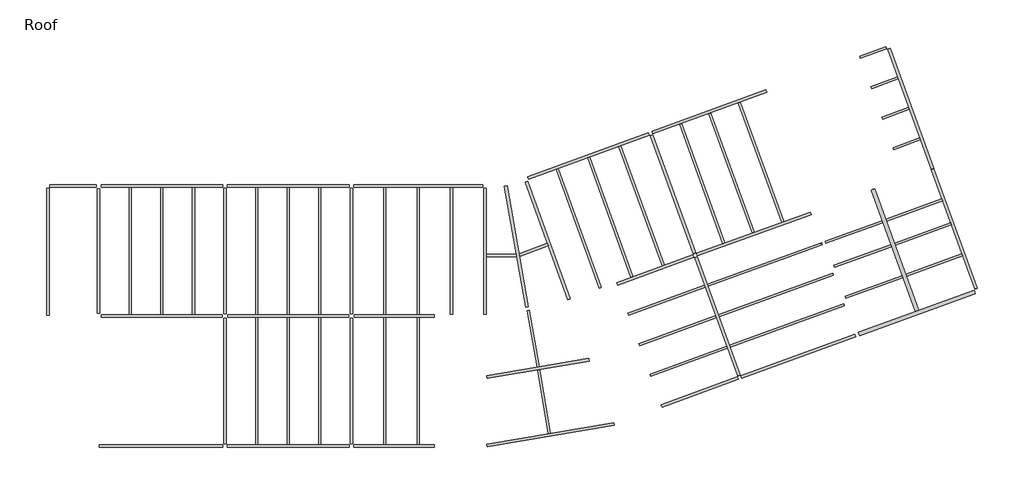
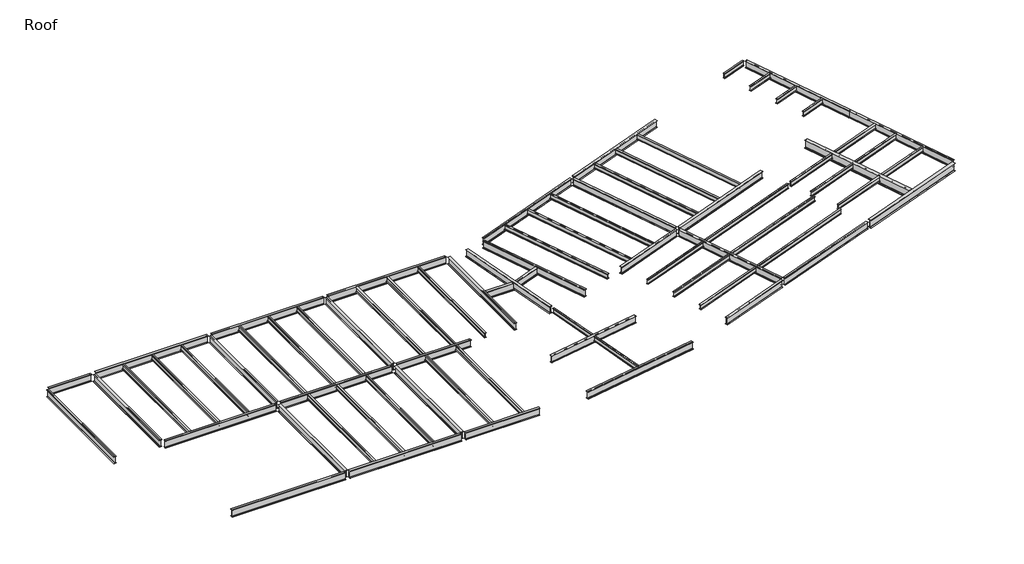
# One storey: 73 beams.
"""IFC4 building model written with IfcOpenShell, lengths in millimetres."""

from ifc_helpers import new_model, si_unit, origin, place, context, project, spatial, transform, mapped, element, save
from components import ub_universal_beams_ub305x127x37_f823aa85, ub_universal_beams_ub305x127x37_cdbcbb51, ub_universal_beams_ub305x127x37_8d1efc97, ub_universal_beams_ub305x127x37_2b7a043a, ub_universal_beams_ub305x127x37_8d2b0bf5, ub_universal_beams_ub305x127x37_16a75a32, ub_universal_beams_ub305x127x37_b9a7bbe5, ub_universal_beams_ub305x127x37_60794b88, ub_universal_beams_ub305x127x37_0c249d50, ub_universal_beams_ub305x127x37_83364cc9, ub_universal_beams_ub305x127x37_55dbae19, ub_universal_beams_ub305x127x37_5bb895c1, ub_universal_beams_ub457x152x67_a95554c7, ub_universal_beams_ub457x152x67_b6dbdd7a, ub_universal_beams_ub457x152x67_885cc86f, ub_universal_beams_ub457x152x67_c84566a2, ub_universal_beams_ub457x152x67_4841b023, ub_universal_beams_ub457x152x67_20791346, ub_universal_beams_ub457x152x67_59459dd6, ub_universal_beams_ub457x152x67_568b5c51, ub_universal_beams_ub457x152x67_e00400c9, ub_universal_beams_ub457x152x67_2db27d90, ub_universal_beams_ub457x152x67_feb0265b, ub_universal_beams_ub457x152x67_78ad538f, ub_universal_beams_ub457x152x67_801fcbf0, ub_universal_beams_ub457x152x67_7192e0ee, ub_universal_beams_ub457x152x67_7b4bcd9a, ub_universal_beams_ub457x152x67_43212cfb, ub_universal_beams_ub457x152x67_e915e172, ub_universal_beams_ub457x152x67_18d3feb0, ub_universal_beams_ub457x152x67_66b76362, ub_universal_beams_ub457x152x67_d54c9229, ub_universal_beams_ub457x152x67_f5dc209c, ub_universal_beams_ub457x152x67_e0a47d06, ub_universal_beams_ub457x152x67_f862a4b8, ub_universal_beams_ub457x152x67_a9511354, ub_universal_beams_ub457x152x67_c91190e6, ub_universal_beams_ub457x152x67_4370fdf8, ub_universal_beams_ub457x152x67_f6859559, ub_universal_beams_ub533x210x82_8ec85ef7, ub_universal_beams_ub533x210x82_0fc11a2d

model = new_model("IFC4")

# Units and contexts
model_context = context("Model", 3, world=origin())
ifc_project = project(units=[si_unit("LENGTHUNIT", "METRE", prefix="MILLI")], contexts=[model_context])

# Site, building, storey
site = spatial("IfcSite", under=ifc_project)
building = spatial("IfcBuilding", under=site)
storey = spatial("IfcBuildingStorey", under=building, Name="Roof", Elevation=11700.0)

# Beams
placement = place(None, origin())
ub_universal_beams_ub305x127x37_shape = ub_universal_beams_ub305x127x37_f823aa85(model_context)
element("IfcBeam", 1, ObjectType="UB-Universal Beams : UB305x127x37", at=placement, inside=storey, context=model_context, shape_type="MappedRepresentation", body=[
    mapped(ub_universal_beams_ub305x127x37_shape, transform((9887.2000022, 11613.2000005, 11547.8), x_axis=(0.0, 1.0, 0.0), y_axis=(-1.0, 0.0, 0.0), z_axis=(0.0, 0.0, 1.0))),
])
element("IfcBeam", 2, ObjectType="UB-Universal Beams : UB305x127x37", at=placement, inside=storey, context=model_context, shape_type="MappedRepresentation", body=[
    mapped(ub_universal_beams_ub305x127x37_shape, transform((11712.2000022, 11613.2000005, 11547.8), x_axis=(0.0, 1.0, 0.0), y_axis=(-1.0, 0.0, 0.0), z_axis=(0.0, 0.0, 1.0))),
])
element("IfcBeam", 3, ObjectType="UB-Universal Beams : UB305x127x37", at=placement, inside=storey, context=model_context, shape_type="MappedRepresentation", body=[
    mapped(ub_universal_beams_ub305x127x37_shape, transform((13537.2000023, 11613.2000005, 11547.8), x_axis=(0.0, 1.0, 0.0), y_axis=(-1.0, 0.0, 0.0), z_axis=(0.0, 0.0, 1.0))),
])
element("IfcBeam", 4, ObjectType="UB-Universal Beams : UB305x127x37", at=placement, inside=storey, context=model_context, shape_type="MappedRepresentation", body=[
    mapped(ub_universal_beams_ub305x127x37_shape, transform((17187.2000023, 11613.2000005, 11547.8), x_axis=(0.0, 1.0, 0.0), y_axis=(-1.0, 0.0, 0.0), z_axis=(0.0, 0.0, 1.0))),
])
element("IfcBeam", 5, ObjectType="UB-Universal Beams : UB305x127x37", at=placement, inside=storey, context=model_context, shape_type="MappedRepresentation", body=[
    mapped(ub_universal_beams_ub305x127x37_shape, transform((19012.2000023, 11613.2000005, 11547.8), x_axis=(0.0, 1.0, 0.0), y_axis=(-1.0, 0.0, 0.0), z_axis=(0.0, 0.0, 1.0))),
])
element("IfcBeam", 6, ObjectType="UB-Universal Beams : UB305x127x37", at=placement, inside=storey, context=model_context, shape_type="MappedRepresentation", body=[
    mapped(ub_universal_beams_ub305x127x37_shape, transform((20837.2000022, 11613.2000005, 11547.8), x_axis=(0.0, 1.0, 0.0), y_axis=(-1.0, 0.0, 0.0), z_axis=(0.0, 0.0, 1.0))),
])
element("IfcBeam", 7, ObjectType="UB-Universal Beams : UB305x127x37", at=placement, inside=storey, context=model_context, shape_type="MappedRepresentation", body=[
    mapped(ub_universal_beams_ub305x127x37_shape, transform((24587.2000022, 11613.2000005, 11547.8), x_axis=(0.0, 1.0, 0.0), y_axis=(-1.0, 0.0, 0.0), z_axis=(0.0, 0.0, 1.0))),
])
element("IfcBeam", 8, ObjectType="UB-Universal Beams : UB305x127x37", at=placement, inside=storey, context=model_context, shape_type="MappedRepresentation", body=[
    mapped(ub_universal_beams_ub305x127x37_shape, transform((26512.2000022, 11613.2000005, 11547.8), x_axis=(0.0, 1.0, 0.0), y_axis=(-1.0, 0.0, 0.0), z_axis=(0.0, 0.0, 1.0))),
])
element("IfcBeam", 9, ObjectType="UB-Universal Beams : UB305x127x37", at=placement, inside=storey, context=model_context, shape_type="MappedRepresentation", body=[
    mapped(ub_universal_beams_ub305x127x37_shape, transform((17187.2000022, 4113.2000005, 11547.8), x_axis=(0.0, 1.0, 0.0), y_axis=(-1.0, 0.0, 0.0), z_axis=(0.0, 0.0, 1.0))),
])
element("IfcBeam", 10, ObjectType="UB-Universal Beams : UB305x127x37", at=placement, inside=storey, context=model_context, shape_type="MappedRepresentation", body=[
    mapped(ub_universal_beams_ub305x127x37_shape, transform((19012.2000022, 4113.2000005, 11547.8), x_axis=(0.0, 1.0, 0.0), y_axis=(-1.0, 0.0, 0.0), z_axis=(0.0, 0.0, 1.0))),
])
element("IfcBeam", 11, ObjectType="UB-Universal Beams : UB305x127x37", at=placement, inside=storey, context=model_context, shape_type="MappedRepresentation", body=[
    mapped(ub_universal_beams_ub305x127x37_shape, transform((20837.2000022, 4113.2000005, 11547.8), x_axis=(0.0, 1.0, 0.0), y_axis=(-1.0, 0.0, 0.0), z_axis=(0.0, 0.0, 1.0))),
])
element("IfcBeam", 12, ObjectType="UB-Universal Beams : UB305x127x37", at=placement, inside=storey, context=model_context, shape_type="MappedRepresentation", body=[
    mapped(ub_universal_beams_ub305x127x37_shape, transform((24587.2000022, 4113.2000004, 11547.8), x_axis=(0.0, 1.0, 0.0), y_axis=(-1.0, 0.0, 0.0), z_axis=(0.0, 0.0, 1.0))),
])
element("IfcBeam", 13, ObjectType="UB-Universal Beams : UB305x127x37", at=placement, inside=storey, context=model_context, shape_type="MappedRepresentation", body=[
    mapped(ub_universal_beams_ub305x127x37_shape, transform((26512.2000022, 4113.2000004, 11547.8), x_axis=(0.0, 1.0, 0.0), y_axis=(-1.0, 0.0, 0.0), z_axis=(0.0, 0.0, 1.0))),
])
element("IfcBeam", 14, ObjectType="UB-Universal Beams : UB305x127x37", at=placement, inside=storey, context=model_context, shape_type="MappedRepresentation", body=[
    mapped(ub_universal_beams_ub305x127x37_shape, transform((39409.0148654, 14226.6858637, 11547.8), x_axis=(0.34202014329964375, -0.9396926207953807, 0.0), y_axis=(0.9396926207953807, 0.34202014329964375, 0.0), z_axis=(0.0, 0.0, 1.0))),
])
element("IfcBeam", 15, ObjectType="UB-Universal Beams : UB305x127x37", at=placement, inside=storey, context=model_context, shape_type="MappedRepresentation", body=[
    mapped(ub_universal_beams_ub305x127x37_shape, transform((37600.1065704, 13568.2970878, 11547.8), x_axis=(0.34202014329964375, -0.9396926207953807, 0.0), y_axis=(0.9396926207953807, 0.34202014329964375, 0.0), z_axis=(0.0, 0.0, 1.0))),
])
element("IfcBeam", 16, ObjectType="UB-Universal Beams : UB305x127x37", at=placement, inside=storey, context=model_context, shape_type="MappedRepresentation", body=[
    mapped(ub_universal_beams_ub305x127x37_shape, transform((42915.2429568, 15502.8485233, 11547.8), x_axis=(-0.3420201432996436, 0.9396926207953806, 0.0), y_axis=(-0.9396926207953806, -0.3420201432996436, 0.0), z_axis=(0.0, 0.0, 1.0))),
])
element("IfcBeam", 17, ObjectType="UB-Universal Beams : UB305x127x37", at=placement, inside=storey, context=model_context, shape_type="MappedRepresentation", body=[
    mapped(ub_universal_beams_ub305x127x37_shape, transform((44612.5627531, 16120.6224071, 11547.8), x_axis=(-0.34202014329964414, 0.9396926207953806, 0.0), y_axis=(-0.9396926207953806, -0.34202014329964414, 0.0), z_axis=(0.0, 0.0, 1.0))),
])
element("IfcBeam", 18, ObjectType="UB-Universal Beams : UB305x127x37", at=placement, inside=storey, context=model_context, shape_type="MappedRepresentation", body=[
    mapped(ub_universal_beams_ub305x127x37_shape, transform((46309.8825494, 16738.396291, 11547.8), x_axis=(-0.34202014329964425, 0.9396926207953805, 0.0), y_axis=(-0.9396926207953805, -0.34202014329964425, 0.0), z_axis=(0.0, 0.0, 1.0))),
])
ub_universal_beams_ub305x127x37_2_shape = ub_universal_beams_ub305x127x37_cdbcbb51(model_context)
element("IfcBeam", 19, ObjectType="UB-Universal Beams : UB305x127x37", at=placement, inside=storey, context=model_context, shape_type="MappedRepresentation", body=[
    mapped(ub_universal_beams_ub305x127x37_2_shape, transform((28437.2000022, 11613.2000005, 11547.8), x_axis=(0.0, 1.0, 0.0), y_axis=(-1.0, 0.0, 0.0), z_axis=(0.0, 0.0, 1.0))),
])
ub_universal_beams_ub305x127x37_3_shape = ub_universal_beams_ub305x127x37_8d1efc97(model_context)
element("IfcBeam", 20, ObjectType="UB-Universal Beams : UB305x127x37", at=placement, inside=storey, context=model_context, shape_type="MappedRepresentation", body=[
    mapped(ub_universal_beams_ub305x127x37_3_shape, transform((35791.1982754, 12909.908312, 11547.8), x_axis=(0.3420201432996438, -0.9396926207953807, 0.0), y_axis=(0.9396926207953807, 0.3420201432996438, 0.0), z_axis=(0.0, 0.0, 1.0))),
])
ub_universal_beams_ub305x127x37_4_shape = ub_universal_beams_ub305x127x37_2b7a043a(model_context)
element("IfcBeam", 21, ObjectType="UB-Universal Beams : UB305x127x37", at=placement, inside=storey, context=model_context, shape_type="MappedRepresentation", body=[
    mapped(ub_universal_beams_ub305x127x37_4_shape, transform((42122.1150828, 5237.5069684, 11547.8), x_axis=(-0.939692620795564, -0.3420201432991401, 0.0), y_axis=(0.3420201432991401, -0.939692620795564, 0.0), z_axis=(0.0, 0.0, 1.0))),
])
element("IfcBeam", 22, ObjectType="UB-Universal Beams : UB305x127x37", at=placement, inside=storey, context=model_context, shape_type="MappedRepresentation", body=[
    mapped(ub_universal_beams_ub305x127x37_4_shape, transform((41480.8273141, 6999.4306323, 11547.8), x_axis=(-0.9396926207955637, -0.3420201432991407, 0.0), y_axis=(0.3420201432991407, -0.9396926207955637, 0.0), z_axis=(0.0, 0.0, 1.0))),
])
element("IfcBeam", 23, ObjectType="UB-Universal Beams : UB305x127x37", at=placement, inside=storey, context=model_context, shape_type="MappedRepresentation", body=[
    mapped(ub_universal_beams_ub305x127x37_4_shape, transform((40839.5395455, 8761.3542963, 11547.8), x_axis=(-0.939692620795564, -0.3420201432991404, 0.0), y_axis=(0.3420201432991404, -0.939692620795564, 0.0), z_axis=(0.0, 0.0, 1.0))),
])
ub_universal_beams_ub305x127x37_5_shape = ub_universal_beams_ub305x127x37_8d2b0bf5(model_context)
element("IfcBeam", 24, ObjectType="UB-Universal Beams : UB305x127x37", at=placement, inside=storey, context=model_context, shape_type="MappedRepresentation", body=[
    mapped(ub_universal_beams_ub305x127x37_5_shape, transform((46536.4260592, 10834.8514152, 11547.8), x_axis=(0.9396926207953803, 0.342020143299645, 0.0), y_axis=(-0.342020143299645, 0.9396926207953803, 0.0), z_axis=(0.0, 0.0, 1.0))),
])
element("IfcBeam", 25, ObjectType="UB-Universal Beams : UB305x127x37", at=placement, inside=storey, context=model_context, shape_type="MappedRepresentation", body=[
    mapped(ub_universal_beams_ub305x127x37_5_shape, transform((47177.7138279, 9072.9277512, 11547.8), x_axis=(0.93969262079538, 0.34202014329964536, 0.0), y_axis=(-0.34202014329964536, 0.93969262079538, 0.0), z_axis=(0.0, 0.0, 1.0))),
])
element("IfcBeam", 26, ObjectType="UB-Universal Beams : UB305x127x37", at=placement, inside=storey, context=model_context, shape_type="MappedRepresentation", body=[
    mapped(ub_universal_beams_ub305x127x37_5_shape, transform((47819.0015966, 7311.0040872, 11547.8), x_axis=(0.9396926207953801, 0.3420201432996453, 0.0), y_axis=(-0.3420201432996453, 0.9396926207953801, 0.0), z_axis=(0.0, 0.0, 1.0))),
])
ub_universal_beams_ub305x127x37_6_shape = ub_universal_beams_ub305x127x37_16a75a32(model_context)
element("IfcBeam", 27, ObjectType="UB-Universal Beams : UB305x127x37", at=placement, inside=storey, context=model_context, shape_type="MappedRepresentation", body=[
    mapped(ub_universal_beams_ub305x127x37_6_shape, transform((52185.7228693, 11321.365084, 11547.8), x_axis=(0.9396926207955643, 0.3420201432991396, 0.0), y_axis=(-0.3420201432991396, 0.9396926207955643, 0.0), z_axis=(0.0, 0.0, 1.0))),
])
element("IfcBeam", 28, ObjectType="UB-Universal Beams : UB305x127x37", at=placement, inside=storey, context=model_context, shape_type="MappedRepresentation", body=[
    mapped(ub_universal_beams_ub305x127x37_6_shape, transform((51681.2431579, 12707.4116997, 11547.8), x_axis=(0.9396926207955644, 0.34202014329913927, 0.0), y_axis=(-0.34202014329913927, 0.9396926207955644, 0.0), z_axis=(0.0, 0.0, 1.0))),
])
ub_universal_beams_ub305x127x37_7_shape = ub_universal_beams_ub305x127x37_b9a7bbe5(model_context)
element("IfcBeam", 29, ObjectType="UB-Universal Beams : UB305x127x37", at=placement, inside=storey, context=model_context, shape_type="MappedRepresentation", body=[
    mapped(ub_universal_beams_ub305x127x37_7_shape, transform((55650.8394085, 12582.5643624, 11547.8), x_axis=(0.939692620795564, 0.34202014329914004, 0.0), y_axis=(-0.34202014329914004, 0.939692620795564, 0.0), z_axis=(0.0, 0.0, 1.0))),
])
element("IfcBeam", 30, ObjectType="UB-Universal Beams : UB305x127x37", at=placement, inside=storey, context=model_context, shape_type="MappedRepresentation", body=[
    mapped(ub_universal_beams_ub305x127x37_7_shape, transform((56300.6776807, 10797.1483829, 11547.8), x_axis=(0.9396926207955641, 0.3420201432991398, 0.0), y_axis=(-0.3420201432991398, 0.9396926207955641, 0.0), z_axis=(0.0, 0.0, 1.0))),
])
element("IfcBeam", 31, ObjectType="UB-Universal Beams : UB305x127x37", at=placement, inside=storey, context=model_context, shape_type="MappedRepresentation", body=[
    mapped(ub_universal_beams_ub305x127x37_7_shape, transform((55146.3596971, 13968.6109781, 11547.8), x_axis=(0.9396926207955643, 0.34202014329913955, 0.0), y_axis=(-0.34202014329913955, 0.9396926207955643, 0.0), z_axis=(0.0, 0.0, 1.0))),
])
ub_universal_beams_ub305x127x37_8_shape = ub_universal_beams_ub305x127x37_60794b88(model_context)
element("IfcBeam", 32, ObjectType="UB-Universal Beams : UB305x127x37", at=placement, inside=storey, context=model_context, shape_type="MappedRepresentation", body=[
    mapped(ub_universal_beams_ub305x127x37_8_shape, transform((53431.3248942, 21325.7226526, 11547.8), x_axis=(-0.939692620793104, -0.34202014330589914, 0.0), y_axis=(0.34202014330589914, -0.939692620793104, 0.0), z_axis=(0.0, 0.0, 1.0))),
])
element("IfcBeam", 33, ObjectType="UB-Universal Beams : UB305x127x37", at=placement, inside=storey, context=model_context, shape_type="MappedRepresentation", body=[
    mapped(ub_universal_beams_ub305x127x37_8_shape, transform((54072.6126629, 19563.7989886, 11547.8), x_axis=(-0.939692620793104, -0.3420201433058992, 0.0), y_axis=(0.3420201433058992, -0.939692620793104, 0.0), z_axis=(0.0, 0.0, 1.0))),
])
element("IfcBeam", 34, ObjectType="UB-Universal Beams : UB305x127x37", at=placement, inside=storey, context=model_context, shape_type="MappedRepresentation", body=[
    mapped(ub_universal_beams_ub305x127x37_8_shape, transform((54713.9004316, 17801.8753247, 11547.8), x_axis=(-0.939692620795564, -0.34202014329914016, 0.0), y_axis=(0.34202014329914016, -0.939692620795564, 0.0), z_axis=(0.0, 0.0, 1.0))),
])
ub_universal_beams_ub305x127x37_9_shape = ub_universal_beams_ub305x127x37_0c249d50(model_context)
element("IfcBeam", 35, ObjectType="UB-Universal Beams : UB305x127x37", at=placement, inside=storey, context=model_context, shape_type="MappedRepresentation", body=[
    mapped(ub_universal_beams_ub305x127x37_9_shape, transform((52835.5611416, 9535.9491045, 11547.8), x_axis=(-0.9396926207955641, -0.34202014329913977, 0.0), y_axis=(0.34202014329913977, -0.9396926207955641, 0.0), z_axis=(0.0, 0.0, 1.0))),
])
ub_universal_beams_ub305x127x37_10_shape = ub_universal_beams_ub305x127x37_83364cc9(model_context)
element("IfcBeam", 36, ObjectType="UB-Universal Beams : UB305x127x37", at=placement, inside=storey, context=model_context, shape_type="MappedRepresentation", body=[
    mapped(ub_universal_beams_ub305x127x37_10_shape, transform((33777.5903073, 2919.2792248, 11547.8), x_axis=(-0.16767868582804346, 0.9858417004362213, 0.0), y_axis=(-0.9858417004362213, -0.16767868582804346, 0.0), z_axis=(0.0, 0.0, 1.0))),
])
ub_universal_beams_ub305x127x37_11_shape = ub_universal_beams_ub305x127x37_55dbae19(model_context)
element("IfcBeam", 37, ObjectType="UB-Universal Beams : UB305x127x37", at=placement, inside=storey, context=model_context, shape_type="MappedRepresentation", body=[
    mapped(ub_universal_beams_ub305x127x37_11_shape, transform((33147.2993723, 6561.7719088, 11547.8), x_axis=(-0.17364817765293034, 0.9848077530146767, 0.0), y_axis=(-0.9848077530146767, -0.17364817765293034, 0.0), z_axis=(0.0, 0.0, 1.0))),
])
ub_universal_beams_ub305x127x37_12_shape = ub_universal_beams_ub305x127x37_5bb895c1(model_context)
element("IfcBeam", 38, ObjectType="UB-Universal Beams : UB305x127x37", at=placement, inside=storey, context=model_context, shape_type="MappedRepresentation", body=[
    mapped(ub_universal_beams_ub305x127x37_12_shape, transform((52790.0371255, 23087.6463166, 11547.8), x_axis=(-0.939692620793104, -0.34202014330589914, 0.0), y_axis=(0.34202014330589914, -0.939692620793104, 0.0), z_axis=(0.0, 0.0, 1.0))),
])
ub_universal_beams_ub457x152x67_shape = ub_universal_beams_ub457x152x67_a95554c7(model_context)
element("IfcBeam", 39, ObjectType="UB-Universal Beams : UB457x152x67", at=placement, inside=storey, context=model_context, shape_type="MappedRepresentation", body=[
    mapped(ub_universal_beams_ub457x152x67_shape, transform((19012.2000023, 15363.2000005, 11471.0), x_axis=(1.0, 0.0, 0.0), y_axis=(0.0, 1.0, 0.0), z_axis=(0.0, 0.0, 1.0))),
])
element("IfcBeam", 40, ObjectType="UB-Universal Beams : UB457x152x67", at=placement, inside=storey, context=model_context, shape_type="MappedRepresentation", body=[
    mapped(ub_universal_beams_ub457x152x67_shape, transform((19012.2000022, 363.2000005, 11471.0), x_axis=(1.0, 0.0, 0.0), y_axis=(0.0, 1.0, 0.0), z_axis=(0.0, 0.0, 1.0))),
])
ub_universal_beams_ub457x152x67_2_shape = ub_universal_beams_ub457x152x67_b6dbdd7a(model_context)
element("IfcBeam", 41, ObjectType="UB-Universal Beams : UB457x152x67", at=placement, inside=storey, context=model_context, shape_type="MappedRepresentation", body=[
    mapped(ub_universal_beams_ub457x152x67_2_shape, transform((26512.2000022, 15363.2000005, 11471.0), x_axis=(1.0, 0.0, 0.0), y_axis=(0.0, 1.0, 0.0), z_axis=(0.0, 0.0, 1.0))),
])
ub_universal_beams_ub457x152x67_3_shape = ub_universal_beams_ub457x152x67_885cc86f(model_context)
element("IfcBeam", 42, ObjectType="UB-Universal Beams : UB457x152x67", at=placement, inside=storey, context=model_context, shape_type="MappedRepresentation", body=[
    mapped(ub_universal_beams_ub457x152x67_3_shape, transform((11674.7000023, 363.2000005, 11471.0), x_axis=(-1.0, 0.0, 0.0), y_axis=(0.0, -1.0, 0.0), z_axis=(0.0, 0.0, 1.0))),
])
ub_universal_beams_ub457x152x67_4_shape = ub_universal_beams_ub457x152x67_c84566a2(model_context)
element("IfcBeam", 43, ObjectType="UB-Universal Beams : UB457x152x67", at=placement, inside=storey, context=model_context, shape_type="MappedRepresentation", body=[
    mapped(ub_universal_beams_ub457x152x67_4_shape, transform((19012.2000023, 7863.2000004, 11471.0), x_axis=(1.0, 0.0, 0.0), y_axis=(0.0, 1.0, 0.0), z_axis=(0.0, 0.0, 1.0))),
])
ub_universal_beams_ub457x152x67_5_shape = ub_universal_beams_ub457x152x67_4841b023(model_context)
element("IfcBeam", 44, ObjectType="UB-Universal Beams : UB457x152x67", at=placement, inside=storey, context=model_context, shape_type="MappedRepresentation", body=[
    mapped(ub_universal_beams_ub457x152x67_5_shape, transform((25112.2000025, 7863.2000004, 11471.0), x_axis=(1.0, 0.0, 0.0), y_axis=(0.0, 1.0, 0.0), z_axis=(0.0, 0.0, 1.0))),
])
ub_universal_beams_ub457x152x67_6_shape = ub_universal_beams_ub457x152x67_20791346(model_context)
element("IfcBeam", 45, ObjectType="UB-Universal Beams : UB457x152x67", at=placement, inside=storey, context=model_context, shape_type="MappedRepresentation", body=[
    mapped(ub_universal_beams_ub457x152x67_6_shape, transform((25112.2000025, 363.2000005, 11471.0), x_axis=(1.0, 0.0, 0.0), y_axis=(0.0, 1.0, 0.0), z_axis=(0.0, 0.0, 1.0))),
])
ub_universal_beams_ub457x152x67_7_shape = ub_universal_beams_ub457x152x67_59459dd6(model_context)
element("IfcBeam", 46, ObjectType="UB-Universal Beams : UB457x152x67", at=placement, inside=storey, context=model_context, shape_type="MappedRepresentation", body=[
    mapped(ub_universal_beams_ub457x152x67_7_shape, transform((15362.2000023, 4113.2000005, 11471.0), x_axis=(0.0, 1.0, 0.0), y_axis=(-1.0, 0.0, 0.0), z_axis=(0.0, 0.0, 1.0))),
])
element("IfcBeam", 47, ObjectType="UB-Universal Beams : UB457x152x67", at=placement, inside=storey, context=model_context, shape_type="MappedRepresentation", body=[
    mapped(ub_universal_beams_ub457x152x67_7_shape, transform((22662.2000022, 4113.2000005, 11471.0), x_axis=(0.0, 1.0, 0.0), y_axis=(-1.0, 0.0, 0.0), z_axis=(0.0, 0.0, 1.0))),
])
ub_universal_beams_ub457x152x67_8_shape = ub_universal_beams_ub457x152x67_568b5c51(model_context)
element("IfcBeam", 48, ObjectType="UB-Universal Beams : UB457x152x67", at=placement, inside=storey, context=model_context, shape_type="MappedRepresentation", body=[
    mapped(ub_universal_beams_ub457x152x67_8_shape, transform((15362.2000023, 11613.2000005, 11471.0), x_axis=(0.0, 1.0, 0.0), y_axis=(-1.0, 0.0, 0.0), z_axis=(0.0, 0.0, 1.0))),
])
element("IfcBeam", 49, ObjectType="UB-Universal Beams : UB457x152x67", at=placement, inside=storey, context=model_context, shape_type="MappedRepresentation", body=[
    mapped(ub_universal_beams_ub457x152x67_8_shape, transform((22662.2000022, 11613.2000005, 11471.0), x_axis=(0.0, 1.0, 0.0), y_axis=(-1.0, 0.0, 0.0), z_axis=(0.0, 0.0, 1.0))),
])
ub_universal_beams_ub457x152x67_9_shape = ub_universal_beams_ub457x152x67_e00400c9(model_context)
element("IfcBeam", 50, ObjectType="UB-Universal Beams : UB457x152x67", at=placement, inside=storey, context=model_context, shape_type="MappedRepresentation", body=[
    mapped(ub_universal_beams_ub457x152x67_9_shape, transform((30362.2000022, 11613.2000005, 11471.0), x_axis=(0.0, 1.0, 0.0), y_axis=(-1.0, 0.0, 0.0), z_axis=(0.0, 0.0, 1.0))),
])
ub_universal_beams_ub457x152x67_10_shape = ub_universal_beams_ub457x152x67_2db27d90(model_context)
element("IfcBeam", 51, ObjectType="UB-Universal Beams : UB457x152x67", at=placement, inside=storey, context=model_context, shape_type="MappedRepresentation", body=[
    mapped(ub_universal_beams_ub457x152x67_10_shape, transform((33982.2899804, 12251.5195361, 11471.0), x_axis=(0.3420201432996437, -0.9396926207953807, 0.0), y_axis=(0.9396926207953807, 0.3420201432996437, 0.0), z_axis=(0.0, 0.0, 1.0))),
])
ub_universal_beams_ub457x152x67_11_shape = ub_universal_beams_ub457x152x67_feb0265b(model_context)
element("IfcBeam", 52, ObjectType="UB-Universal Beams : UB457x152x67", at=placement, inside=storey, context=model_context, shape_type="MappedRepresentation", body=[
    mapped(ub_universal_beams_ub457x152x67_11_shape, transform((32191.7898055, 11821.5156209, 11471.0), x_axis=(0.173648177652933, -0.9848077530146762, 0.0), y_axis=(0.9848077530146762, 0.173648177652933, 0.0), z_axis=(0.0, 0.0, 1.0))),
])
ub_universal_beams_ub457x152x67_12_shape = ub_universal_beams_ub457x152x67_78ad538f(model_context)
element("IfcBeam", 53, ObjectType="UB-Universal Beams : UB457x152x67", at=placement, inside=storey, context=model_context, shape_type="MappedRepresentation", body=[
    mapped(ub_universal_beams_ub457x152x67_12_shape, transform((31317.5755278, 11361.2273115, 11471.0), x_axis=(1.0, 0.0, 0.0), y_axis=(0.0, 1.0, 0.0), z_axis=(0.0, 0.0, 1.0))),
])
ub_universal_beams_ub457x152x67_13_shape = ub_universal_beams_ub457x152x67_801fcbf0(model_context)
element("IfcBeam", 54, ObjectType="UB-Universal Beams : UB457x152x67", at=placement, inside=storey, context=model_context, shape_type="MappedRepresentation", body=[
    mapped(ub_universal_beams_ub457x152x67_13_shape, transform((33170.7103845, 11687.9849855, 11471.0), x_axis=(0.9396926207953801, 0.3420201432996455, 0.0), y_axis=(-0.3420201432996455, 0.9396926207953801, 0.0), z_axis=(0.0, 0.0, 1.0))),
])
ub_universal_beams_ub457x152x67_14_shape = ub_universal_beams_ub457x152x67_7192e0ee(model_context)
element("IfcBeam", 55, ObjectType="UB-Universal Beams : UB457x152x67", at=placement, inside=storey, context=model_context, shape_type="MappedRepresentation", body=[
    mapped(ub_universal_beams_ub457x152x67_14_shape, transform((43329.9872158, 19644.4697351, 11471.0), x_axis=(0.9396926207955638, 0.3420201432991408, 0.0), y_axis=(-0.3420201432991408, 0.9396926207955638, 0.0), z_axis=(0.0, 0.0, 1.0))),
])
ub_universal_beams_ub457x152x67_15_shape = ub_universal_beams_ub457x152x67_7b4bcd9a(model_context)
element("IfcBeam", 56, ObjectType="UB-Universal Beams : UB457x152x67", at=placement, inside=storey, context=model_context, shape_type="MappedRepresentation", body=[
    mapped(ub_universal_beams_ub457x152x67_15_shape, transform((54937.4354241, 19878.5687316, 11471.0), x_axis=(-0.3420201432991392, 0.9396926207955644, 0.0), y_axis=(-0.9396926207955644, -0.3420201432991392, 0.0), z_axis=(0.0, 0.0, 1.0))),
])
ub_universal_beams_ub457x152x67_16_shape = ub_universal_beams_ub457x152x67_43212cfb(model_context)
element("IfcBeam", 57, ObjectType="UB-Universal Beams : UB457x152x67", at=placement, inside=storey, context=model_context, shape_type="MappedRepresentation", body=[
    mapped(ub_universal_beams_ub457x152x67_16_shape, transform((57502.5864988, 12830.8740757, 11471.0), x_axis=(0.3420201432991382, -0.9396926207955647, 0.0), y_axis=(0.9396926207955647, 0.3420201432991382, 0.0), z_axis=(0.0, 0.0, 1.0))),
])
ub_universal_beams_ub457x152x67_17_shape = ub_universal_beams_ub457x152x67_e915e172(model_context)
element("IfcBeam", 58, ObjectType="UB-Universal Beams : UB457x152x67", at=placement, inside=storey, context=model_context, shape_type="MappedRepresentation", body=[
    mapped(ub_universal_beams_ub457x152x67_17_shape, transform((11712.2000023, 15363.2000005, 11471.0), x_axis=(1.0, 0.0, 0.0), y_axis=(0.0, 1.0, 0.0), z_axis=(0.0, 0.0, 1.0))),
])
ub_universal_beams_ub457x152x67_18_shape = ub_universal_beams_ub457x152x67_18d3feb0(model_context)
element("IfcBeam", 59, ObjectType="UB-Universal Beams : UB457x152x67", at=placement, inside=storey, context=model_context, shape_type="MappedRepresentation", body=[
    mapped(ub_universal_beams_ub457x152x67_18_shape, transform((8062.2000022, 11613.2000005, 11471.0), x_axis=(0.0, 1.0, 0.0), y_axis=(-1.0, 0.0, 0.0), z_axis=(0.0, 0.0, 1.0))),
])
ub_universal_beams_ub457x152x67_19_shape = ub_universal_beams_ub457x152x67_66b76362(model_context)
element("IfcBeam", 60, ObjectType="UB-Universal Beams : UB457x152x67", at=placement, inside=storey, context=model_context, shape_type="MappedRepresentation", body=[
    mapped(ub_universal_beams_ub457x152x67_19_shape, transform((34104.0944675, 999.6469535, 11471.0), x_axis=(0.985841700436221, 0.1676786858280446, 0.0), y_axis=(-0.1676786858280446, 0.985841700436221, 0.0), z_axis=(0.0, 0.0, 1.0))),
])
ub_universal_beams_ub457x152x67_20_shape = ub_universal_beams_ub457x152x67_d54c9229(model_context)
element("IfcBeam", 61, ObjectType="UB-Universal Beams : UB457x152x67", at=placement, inside=storey, context=model_context, shape_type="MappedRepresentation", body=[
    mapped(ub_universal_beams_ub457x152x67_20_shape, transform((33427.1029223, 4834.8322654, 11471.0), x_axis=(0.9858417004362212, 0.1676786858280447, 0.0), y_axis=(-0.1676786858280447, 0.9858417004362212, 0.0), z_axis=(0.0, 0.0, 1.0))),
])
ub_universal_beams_ub457x152x67_21_shape = ub_universal_beams_ub457x152x67_f5dc209c(model_context)
element("IfcBeam", 62, ObjectType="UB-Universal Beams : UB457x152x67", at=placement, inside=storey, context=model_context, shape_type="MappedRepresentation", body=[
    mapped(ub_universal_beams_ub457x152x67_21_shape, transform((41217.9231605, 14885.0746394, 11471.0), x_axis=(-0.3420201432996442, 0.9396926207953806, 0.0), y_axis=(-0.9396926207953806, -0.3420201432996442, 0.0), z_axis=(0.0, 0.0, 1.0))),
])
element("IfcBeam", 63, ObjectType="UB-Universal Beams : UB457x152x67", at=placement, inside=storey, context=model_context, shape_type="MappedRepresentation", body=[
    mapped(ub_universal_beams_ub457x152x67_21_shape, transform((43783.0742352, 7837.3799835, 11471.0), x_axis=(-0.3420201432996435, 0.939692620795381, 0.0), y_axis=(-0.939692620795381, -0.3420201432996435, 0.0), z_axis=(0.0, 0.0, 1.0))),
])
element("IfcBeam", 64, ObjectType="UB-Universal Beams : UB457x152x67", at=placement, inside=storey, context=model_context, shape_type="MappedRepresentation", body=[
    mapped(ub_universal_beams_ub457x152x67_14_shape, transform((45895.1382905, 12596.7750792, 11471.0), x_axis=(0.9396926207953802, 0.34202014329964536, 0.0), y_axis=(-0.34202014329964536, 0.9396926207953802, 0.0), z_axis=(0.0, 0.0, 1.0))),
])
element("IfcBeam", 65, ObjectType="UB-Universal Beams : UB457x152x67", at=placement, inside=storey, context=model_context, shape_type="MappedRepresentation", body=[
    mapped(ub_universal_beams_ub457x152x67_14_shape, transform((48460.2893652, 5549.0804232, 11471.0), x_axis=(0.9396926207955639, 0.3420201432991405, 0.0), y_axis=(-0.3420201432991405, 0.9396926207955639, 0.0), z_axis=(0.0, 0.0, 1.0))),
])
ub_universal_beams_ub457x152x67_22_shape = ub_universal_beams_ub457x152x67_e0a47d06(model_context)
element("IfcBeam", 66, ObjectType="UB-Universal Beams : UB457x152x67", at=placement, inside=storey, context=model_context, shape_type="MappedRepresentation", body=[
    mapped(ub_universal_beams_ub457x152x67_22_shape, transform((40198.2517768, 10523.2779603, 11471.0), x_axis=(0.9396926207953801, 0.34202014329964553, 0.0), y_axis=(-0.34202014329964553, 0.9396926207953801, 0.0), z_axis=(0.0, 0.0, 1.0))),
])
ub_universal_beams_ub457x152x67_23_shape = ub_universal_beams_ub457x152x67_f862a4b8(model_context)
element("IfcBeam", 67, ObjectType="UB-Universal Beams : UB457x152x67", at=placement, inside=storey, context=model_context, shape_type="MappedRepresentation", body=[
    mapped(ub_universal_beams_ub457x152x67_23_shape, transform((42763.4028515, 3475.5833044, 11471.0), x_axis=(-0.9396926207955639, -0.34202014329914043, 0.0), y_axis=(0.34202014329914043, -0.9396926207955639, 0.0), z_axis=(0.0, 0.0, 1.0))),
])
ub_universal_beams_ub457x152x67_24_shape = ub_universal_beams_ub457x152x67_a9511354(model_context)
element("IfcBeam", 68, ObjectType="UB-Universal Beams : UB457x152x67", at=placement, inside=storey, context=model_context, shape_type="MappedRepresentation", body=[
    mapped(ub_universal_beams_ub457x152x67_24_shape, transform((5131.8666692, 11575.7000004, 11471.0), x_axis=(0.0, -1.0, 0.0), y_axis=(1.0, 0.0, 0.0), z_axis=(0.0, 0.0, 1.0))),
])
ub_universal_beams_ub457x152x67_25_shape = ub_universal_beams_ub457x152x67_c91190e6(model_context)
element("IfcBeam", 69, ObjectType="UB-Universal Beams : UB457x152x67", at=placement, inside=storey, context=model_context, shape_type="MappedRepresentation", body=[
    mapped(ub_universal_beams_ub457x152x67_25_shape, transform((36317.5310328, 17092.1444158, 11471.0), x_axis=(0.9396926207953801, 0.3420201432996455, 0.0), y_axis=(-0.3420201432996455, 0.9396926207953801, 0.0), z_axis=(0.0, 0.0, 1.0))),
])
ub_universal_beams_ub457x152x67_26_shape = ub_universal_beams_ub457x152x67_4370fdf8(model_context)
element("IfcBeam", 70, ObjectType="UB-Universal Beams : UB457x152x67", at=placement, inside=storey, context=model_context, shape_type="MappedRepresentation", body=[
    mapped(ub_universal_beams_ub457x152x67_26_shape, transform((6543.0666692, 15363.2000005, 11471.0), x_axis=(1.0, 0.0, 0.0), y_axis=(0.0, 1.0, 0.0), z_axis=(0.0, 0.0, 1.0))),
])
ub_universal_beams_ub457x152x67_27_shape = ub_universal_beams_ub457x152x67_f6859559(model_context)
element("IfcBeam", 71, ObjectType="UB-Universal Beams : UB457x152x67", at=placement, inside=storey, context=model_context, shape_type="MappedRepresentation", body=[
    mapped(ub_universal_beams_ub457x152x67_27_shape, transform((11675.1750024, 7863.2000004, 11471.0), x_axis=(-1.0, 0.0, 0.0), y_axis=(0.0, -1.0, 0.0), z_axis=(0.0, 0.0, 1.0))),
])
ub_universal_beams_ub533x210x82_shape = ub_universal_beams_ub533x210x82_8ec85ef7(model_context)
element("IfcBeam", 72, ObjectType="UB-Universal Beams : UB533x210x82", at=placement, inside=storey, context=model_context, shape_type="MappedRepresentation", body=[
    mapped(ub_universal_beams_ub533x210x82_shape, transform((54042.3541451, 11665.8982726, 11435.85), x_axis=(-0.34202014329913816, 0.9396926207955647, 0.0), y_axis=(-0.9396926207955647, -0.34202014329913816, 0.0), z_axis=(0.0, 0.0, 1.0))),
])
ub_universal_beams_ub533x210x82_2_shape = ub_universal_beams_ub533x210x82_0fc11a2d(model_context)
element("IfcBeam", 73, ObjectType="UB-Universal Beams : UB533x210x82", at=placement, inside=storey, context=model_context, shape_type="MappedRepresentation", body=[
    mapped(ub_universal_beams_ub533x210x82_2_shape, transform((55320.045497, 8045.8274693, 11435.85), x_axis=(0.9396926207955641, 0.3420201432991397, 0.0), y_axis=(-0.3420201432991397, 0.9396926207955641, 0.0), z_axis=(0.0, 0.0, 1.0))),
])

save(model, "model.ifc")
